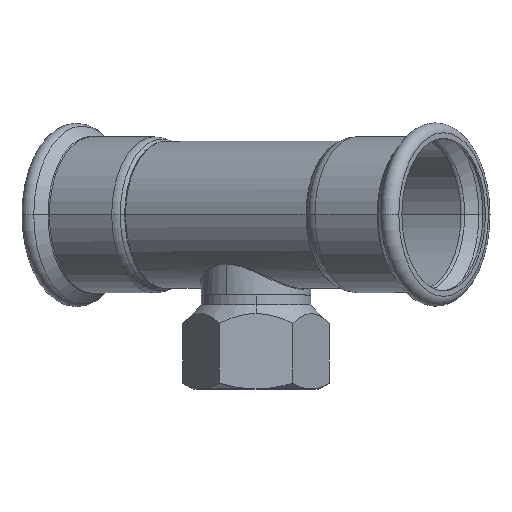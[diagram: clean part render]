
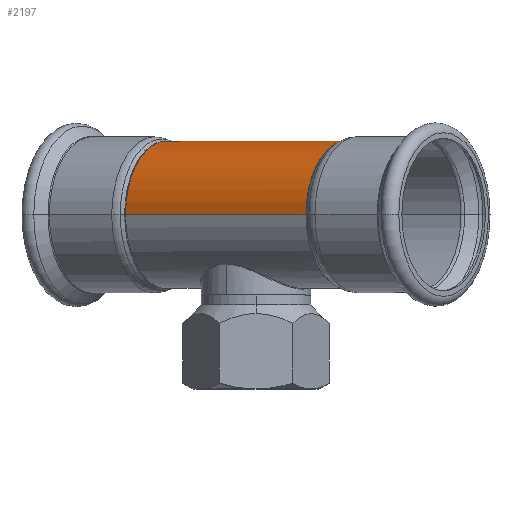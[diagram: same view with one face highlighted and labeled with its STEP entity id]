
A CAD part, top view. The second image highlights one B-rep face of the part: STEP entity #2197.
In plain terms, the highlighted cylindrical face has radius 37.55 mm (diameter 75.1 mm), a partial arc.
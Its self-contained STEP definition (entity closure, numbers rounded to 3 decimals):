
#192 = AXIS2_PLACEMENT_3D ( 'NONE', #3932, #1543, #2254 ) ;
#258 = DIRECTION ( 'NONE',  ( -1., 0., 0. ) ) ;
#273 = AXIS2_PLACEMENT_3D ( 'NONE', #1144, #3602, #4307 ) ;
#399 = VERTEX_POINT ( 'NONE', #1636 ) ;
#468 = VERTEX_POINT ( 'NONE', #2387 ) ;
#483 = CARTESIAN_POINT ( 'NONE',  ( 55.056, 0., 37.55 ) ) ;
#608 = CYLINDRICAL_SURFACE ( 'NONE', #1083, 37.55 ) ;
#660 = LINE ( 'NONE', #1370, #2330 ) ;
#956 = VECTOR ( 'NONE', #1860, 1000. ) ;
#1083 = AXIS2_PLACEMENT_3D ( 'NONE', #3749, #258, #2030 ) ;
#1144 = CARTESIAN_POINT ( 'NONE',  ( 55.056, 0., 0. ) ) ;
#1166 = EDGE_CURVE ( 'NONE', #399, #2624, #1361, .T. ) ;
#1361 = CIRCLE ( 'NONE', #192, 37.55 ) ;
#1370 = CARTESIAN_POINT ( 'NONE',  ( 27.146, 0., -37.55 ) ) ;
#1543 = DIRECTION ( 'NONE',  ( -1., 0., 0. ) ) ;
#1621 = CARTESIAN_POINT ( 'NONE',  ( -55.056, 0., 37.55 ) ) ;
#1636 = CARTESIAN_POINT ( 'NONE',  ( -55.056, 0., -37.55 ) ) ;
#1691 = LINE ( 'NONE', #4066, #956 ) ;
#1860 = DIRECTION ( 'NONE',  ( -1., 0., 0. ) ) ;
#2030 = DIRECTION ( 'NONE',  ( 0., 0., 1. ) ) ;
#2052 = EDGE_LOOP ( 'NONE', ( #2565, #2633, #4471, #4274 ) ) ;
#2197 = ADVANCED_FACE ( 'NONE', ( #3784 ), #608, .T. ) ;
#2254 = DIRECTION ( 'NONE',  ( 0., 0., 1. ) ) ;
#2330 = VECTOR ( 'NONE', #3560, 1000. ) ;
#2349 = EDGE_CURVE ( 'NONE', #3454, #2624, #1691, .T. ) ;
#2387 = CARTESIAN_POINT ( 'NONE',  ( 55.056, 0., -37.55 ) ) ;
#2565 = ORIENTED_EDGE ( 'NONE', *, *, #3847, .F. ) ;
#2624 = VERTEX_POINT ( 'NONE', #1621 ) ;
#2633 = ORIENTED_EDGE ( 'NONE', *, *, #3179, .T. ) ;
#2942 = CIRCLE ( 'NONE', #273, 37.55 ) ;
#3179 = EDGE_CURVE ( 'NONE', #468, #3454, #2942, .T. ) ;
#3454 = VERTEX_POINT ( 'NONE', #483 ) ;
#3560 = DIRECTION ( 'NONE',  ( -1., 0., 0. ) ) ;
#3602 = DIRECTION ( 'NONE',  ( -1., 0., 0. ) ) ;
#3749 = CARTESIAN_POINT ( 'NONE',  ( 27.146, 0., 0. ) ) ;
#3784 = FACE_OUTER_BOUND ( 'NONE', #2052, .T. ) ;
#3847 = EDGE_CURVE ( 'NONE', #468, #399, #660, .T. ) ;
#3932 = CARTESIAN_POINT ( 'NONE',  ( -55.056, 0., 0. ) ) ;
#4066 = CARTESIAN_POINT ( 'NONE',  ( 27.146, 0., 37.55 ) ) ;
#4274 = ORIENTED_EDGE ( 'NONE', *, *, #1166, .F. ) ;
#4307 = DIRECTION ( 'NONE',  ( 0., 0., 1. ) ) ;
#4471 = ORIENTED_EDGE ( 'NONE', *, *, #2349, .T. ) ;
